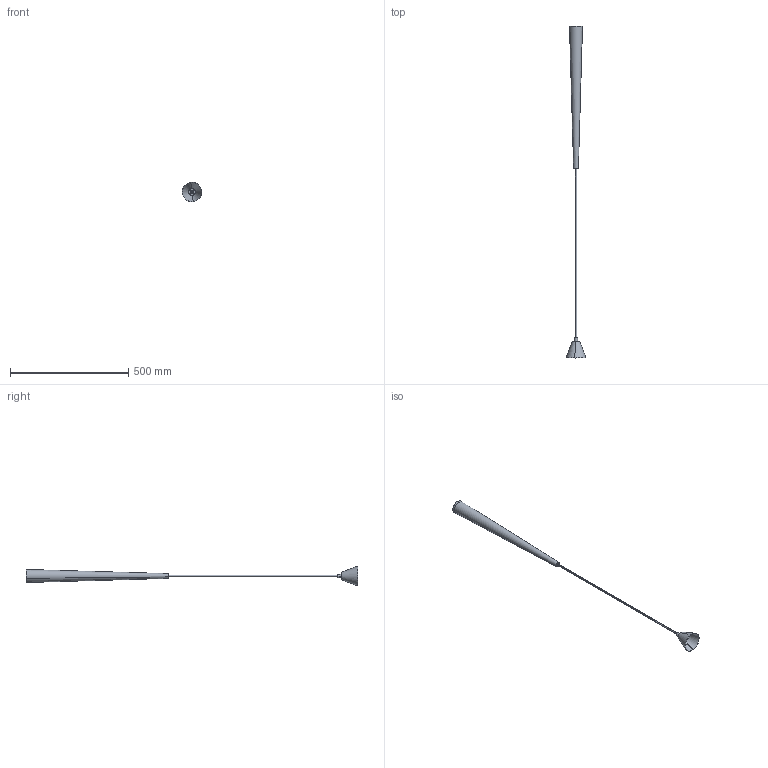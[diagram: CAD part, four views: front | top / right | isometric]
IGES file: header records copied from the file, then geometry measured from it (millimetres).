
Start section: SolidWorks IGES file using analytic representation for surfaces
Global section: file name: Z:\Modele 3D_WWW\_KOLEKCJE_WWW\QUEBECK\QUEBECK-5405-5403\QUEBECK-5405-5403.IGS; native system: SolidWorks 2020; preprocessor: SolidWorks 2020; author: gabriela.tworek; date: 210413.095637; units: millimetre
Bounding box: 83.88 x 1402.68 x 83.88 mm (x, y, z)
Surface area: 189692.1 mm2 (no closed solid volume)
Topology: 0 solids, 0 shells, 73 faces, 1193 edges, 1193 vertices
Faces by surface type: bspline 41, revolution 32
